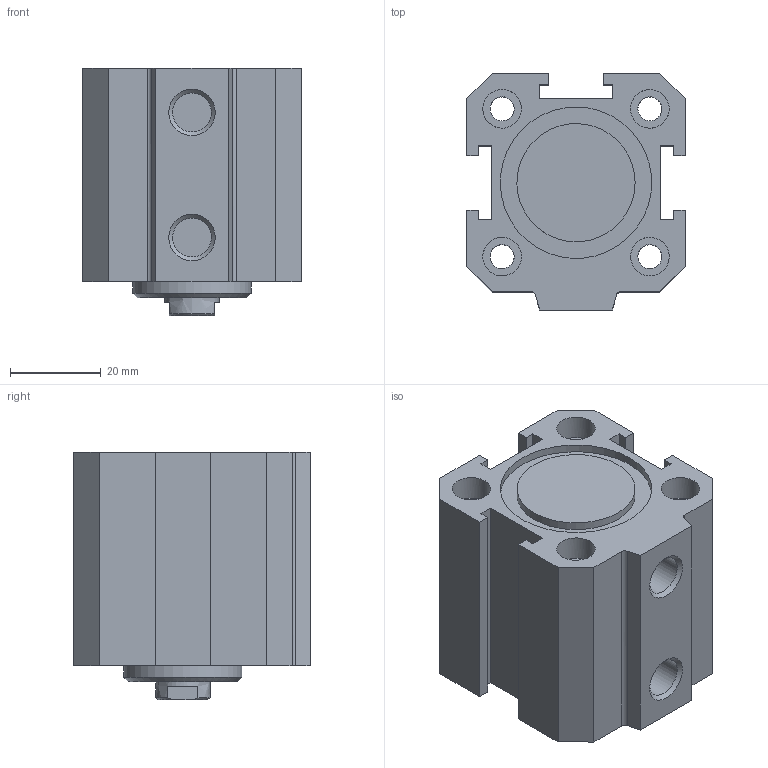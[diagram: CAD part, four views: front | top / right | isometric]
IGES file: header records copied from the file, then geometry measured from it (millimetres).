
Global section: file name: 1511_32_0010; native system: Autodesk Inventor 2014; preprocessor: unknown; author: A. Manieri; date: 20160824.113351; units: millimetre
Bounding box: 48 x 52 x 54.5 mm (x, y, z)
Volume: 84771.6 mm3; surface area: 28735.7 mm2
Topology: 2 solids, 2 shells, 93 faces, 237 edges, 166 vertices
Faces by surface type: bspline 93
